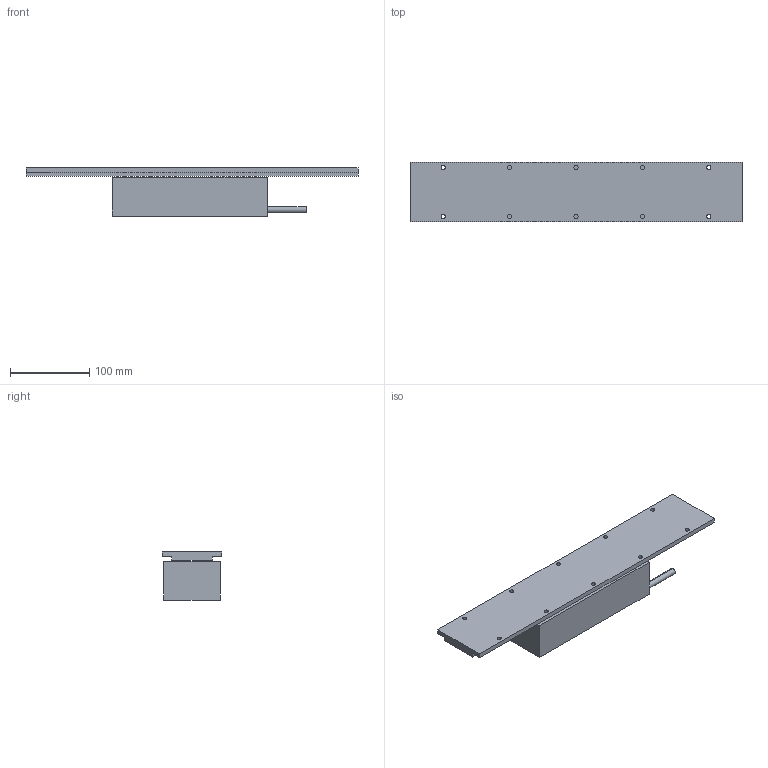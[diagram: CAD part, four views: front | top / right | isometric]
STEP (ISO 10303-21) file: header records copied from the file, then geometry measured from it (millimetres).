
FILE_DESCRIPTION (( 'STEP AP214' ), '1' );
FILE_NAME ('FLM-71-196蚾饜极.STEP', '2022-05-12T08:02:33', ( 'Microsoft' ), ( 'Microsoft' ), 'SwSTEP 2.0', 'SolidWorks 2016', '' );
FILE_SCHEMA (( 'AUTOMOTIVE_DESIGN' ));
Length unit declared in the file: millimetre
Products named in the file (3): FLM-71-196; FLM-71-196蚾饜极; TLM-75-L420
Assembly tree (2 placements, depth 2):
  FLM-71-196蚾饜极
    FLM-71-196
    TLM-75-L420
Bounding box: 420 x 75 x 61.1 mm (x, y, z)
Volume: 977601.7 mm3; surface area: 130513 mm2
Topology: 2 solids, 2 shells, 141 faces, 330 edges, 192 vertices
Faces by surface type: cylinder 66, cone 48, plane 27
Entity records: 4282 total; most frequent: DIRECTION 754, CARTESIAN_POINT 644, ORIENTED_EDGE 612, EDGE_CURVE 306, AXIS2_PLACEMENT_3D 302, VERTEX_POINT 192, EDGE_LOOP 184, CIRCLE 156
